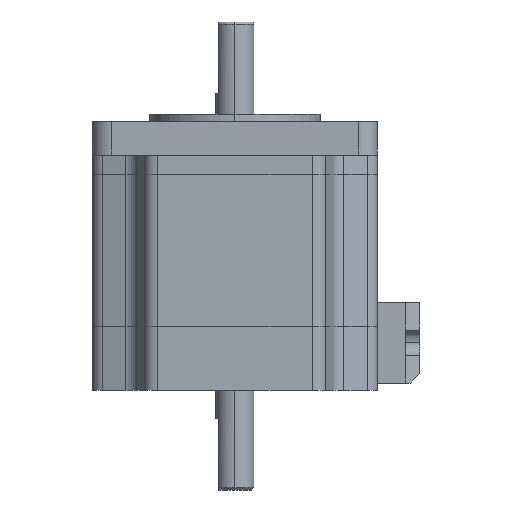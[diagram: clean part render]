
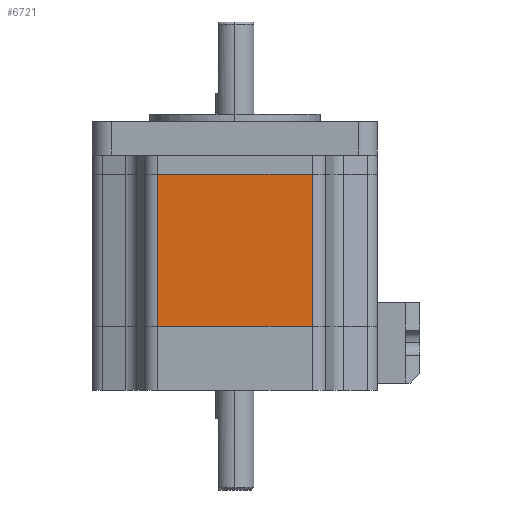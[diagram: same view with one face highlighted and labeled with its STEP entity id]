
A CAD part, left-side view. The second image highlights one B-rep face of the part: STEP entity #6721.
In plain terms, the highlighted planar face has unit normal (-1, 0, 0).
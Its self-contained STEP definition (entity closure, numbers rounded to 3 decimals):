
#11 = DIRECTION ( 'NONE',  ( 0., 1., 0. ) ) ;
#510 = CARTESIAN_POINT ( 'NONE',  ( -29.965, -16.234, -32. ) ) ;
#971 = ORIENTED_EDGE ( 'NONE', *, *, #5945, .T. ) ;
#1029 = LINE ( 'NONE', #510, #2614 ) ;
#1112 = ORIENTED_EDGE ( 'NONE', *, *, #5497, .F. ) ;
#1140 = VERTEX_POINT ( 'NONE', #2509 ) ;
#1179 = LINE ( 'NONE', #6192, #1267 ) ;
#1267 = VECTOR ( 'NONE', #11, 1000. ) ;
#1533 = CARTESIAN_POINT ( 'NONE',  ( -29.965, -16.234, 0. ) ) ;
#1633 = VERTEX_POINT ( 'NONE', #1533 ) ;
#1660 = CARTESIAN_POINT ( 'NONE',  ( -29.965, 16.234, -32. ) ) ;
#1769 = CARTESIAN_POINT ( 'NONE',  ( -29.965, -16.234, -32. ) ) ;
#1809 = CARTESIAN_POINT ( 'NONE',  ( -29.965, -16.234, 0. ) ) ;
#2509 = CARTESIAN_POINT ( 'NONE',  ( -29.965, 16.234, 0. ) ) ;
#2614 = VECTOR ( 'NONE', #7745, 1000. ) ;
#2740 = DIRECTION ( 'NONE',  ( 1., 0., 0. ) ) ;
#2776 = DIRECTION ( 'NONE',  ( 0., 1., 0. ) ) ;
#2837 = AXIS2_PLACEMENT_3D ( 'NONE', #3416, #2740, #2776 ) ;
#2946 = VERTEX_POINT ( 'NONE', #1769 ) ;
#2953 = EDGE_LOOP ( 'NONE', ( #971, #1112, #3804, #2966 ) ) ;
#2966 = ORIENTED_EDGE ( 'NONE', *, *, #4565, .T. ) ;
#3416 = CARTESIAN_POINT ( 'NONE',  ( -29.965, -16.234, -32. ) ) ;
#3696 = LINE ( 'NONE', #1809, #6097 ) ;
#3804 = ORIENTED_EDGE ( 'NONE', *, *, #3898, .F. ) ;
#3898 = EDGE_CURVE ( 'NONE', #2946, #6823, #1179, .T. ) ;
#3899 = PLANE ( 'NONE',  #2837 ) ;
#3934 = CARTESIAN_POINT ( 'NONE',  ( -29.965, 16.234, -32. ) ) ;
#4212 = DIRECTION ( 'NONE',  ( 0., 1., 0. ) ) ;
#4565 = EDGE_CURVE ( 'NONE', #2946, #1633, #1029, .T. ) ;
#5375 = DIRECTION ( 'NONE',  ( 0., 0., 1. ) ) ;
#5497 = EDGE_CURVE ( 'NONE', #6823, #1140, #7132, .T. ) ;
#5769 = FACE_OUTER_BOUND ( 'NONE', #2953, .T. ) ;
#5945 = EDGE_CURVE ( 'NONE', #1633, #1140, #3696, .T. ) ;
#5978 = VECTOR ( 'NONE', #5375, 1000. ) ;
#6097 = VECTOR ( 'NONE', #4212, 1000. ) ;
#6192 = CARTESIAN_POINT ( 'NONE',  ( -29.965, -16.234, -32. ) ) ;
#6721 = ADVANCED_FACE ( 'NONE', ( #5769 ), #3899, .F. ) ;
#6823 = VERTEX_POINT ( 'NONE', #3934 ) ;
#7132 = LINE ( 'NONE', #1660, #5978 ) ;
#7745 = DIRECTION ( 'NONE',  ( 0., 0., 1. ) ) ;
